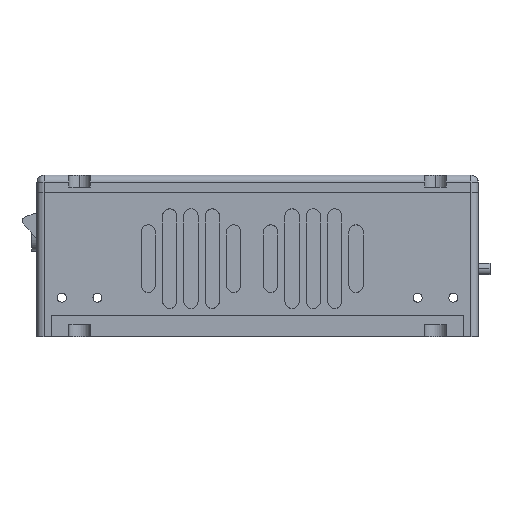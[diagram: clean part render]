
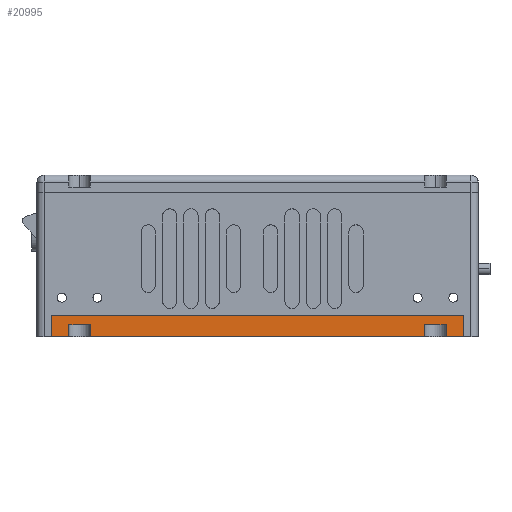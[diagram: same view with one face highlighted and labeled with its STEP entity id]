
A CAD part, left-side view. The second image highlights one B-rep face of the part: STEP entity #20995.
In plain terms, the highlighted planar face has unit normal (-1, 0, 0).
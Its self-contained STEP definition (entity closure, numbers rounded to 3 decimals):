
#875 = VECTOR ( 'NONE', #20814, 1000. ) ;
#926 = LINE ( 'NONE', #4193, #1162 ) ;
#1007 = EDGE_CURVE ( 'NONE', #1456, #4989, #12680, .T. ) ;
#1162 = VECTOR ( 'NONE', #10701, 1000. ) ;
#1406 = ORIENTED_EDGE ( 'NONE', *, *, #19804, .F. ) ;
#1430 = CARTESIAN_POINT ( 'NONE',  ( -82.367, -50.423, 167. ) ) ;
#1456 = VERTEX_POINT ( 'NONE', #18347 ) ;
#1684 = CARTESIAN_POINT ( 'NONE',  ( -82.367, -56.423, 170.4 ) ) ;
#1839 = LINE ( 'NONE', #19705, #2076 ) ;
#2006 = EDGE_CURVE ( 'NONE', #1456, #9806, #4565, .T. ) ;
#2051 = CARTESIAN_POINT ( 'NONE',  ( -82.367, 49.577, 170.4 ) ) ;
#2076 = VECTOR ( 'NONE', #17994, 1000. ) ;
#2280 = VECTOR ( 'NONE', #13365, 1000. ) ;
#2338 = CARTESIAN_POINT ( 'NONE',  ( -82.367, 54.577, 173. ) ) ;
#2495 = VECTOR ( 'NONE', #5290, 1000. ) ;
#2506 = EDGE_CURVE ( 'NONE', #12335, #9806, #8836, .T. ) ;
#2727 = VECTOR ( 'NONE', #9478, 1000. ) ;
#3028 = EDGE_CURVE ( 'NONE', #16609, #6830, #18991, .T. ) ;
#3306 = LINE ( 'NONE', #7106, #6836 ) ;
#3420 = VERTEX_POINT ( 'NONE', #9314 ) ;
#3558 = VECTOR ( 'NONE', #9912, 1000. ) ;
#3745 = CARTESIAN_POINT ( 'NONE',  ( -82.367, 49.577, 170.4 ) ) ;
#4193 = CARTESIAN_POINT ( 'NONE',  ( -82.367, 54.577, 173. ) ) ;
#4553 = EDGE_CURVE ( 'NONE', #3420, #19955, #17656, .T. ) ;
#4565 = LINE ( 'NONE', #2051, #3558 ) ;
#4691 = ORIENTED_EDGE ( 'NONE', *, *, #2006, .F. ) ;
#4752 = VERTEX_POINT ( 'NONE', #15041 ) ;
#4789 = CARTESIAN_POINT ( 'NONE',  ( -82.367, -61.423, 173. ) ) ;
#4989 = VERTEX_POINT ( 'NONE', #10910 ) ;
#5290 = DIRECTION ( 'NONE',  ( 0., -1., 0. ) ) ;
#5460 = DIRECTION ( 'NONE',  ( 0., 1., 0. ) ) ;
#5470 = DIRECTION ( 'NONE',  ( 0., -1., 0. ) ) ;
#5481 = ORIENTED_EDGE ( 'NONE', *, *, #4553, .T. ) ;
#5864 = ORIENTED_EDGE ( 'NONE', *, *, #3028, .F. ) ;
#6262 = ORIENTED_EDGE ( 'NONE', *, *, #8867, .T. ) ;
#6665 = CARTESIAN_POINT ( 'NONE',  ( -82.367, -50.423, 170.4 ) ) ;
#6668 = AXIS2_PLACEMENT_3D ( 'NONE', #2338, #13618, #5460 ) ;
#6784 = DIRECTION ( 'NONE',  ( 0., 0., -1. ) ) ;
#6830 = VERTEX_POINT ( 'NONE', #6665 ) ;
#6836 = VECTOR ( 'NONE', #5470, 1000. ) ;
#6897 = LINE ( 'NONE', #10204, #18859 ) ;
#6944 = DIRECTION ( 'NONE',  ( 0., 1., 0. ) ) ;
#7091 = CARTESIAN_POINT ( 'NONE',  ( -82.367, 54.577, 167. ) ) ;
#7106 = CARTESIAN_POINT ( 'NONE',  ( -82.367, 54.577, 173. ) ) ;
#7785 = VECTOR ( 'NONE', #6944, 1000. ) ;
#8346 = VERTEX_POINT ( 'NONE', #12991 ) ;
#8349 = CARTESIAN_POINT ( 'NONE',  ( -82.367, -56.423, 170.4 ) ) ;
#8456 = LINE ( 'NONE', #4789, #13807 ) ;
#8614 = CARTESIAN_POINT ( 'NONE',  ( -82.367, -56.423, 170.4 ) ) ;
#8836 = LINE ( 'NONE', #13449, #2495 ) ;
#8867 = EDGE_CURVE ( 'NONE', #4989, #9069, #1839, .T. ) ;
#9069 = VERTEX_POINT ( 'NONE', #10587 ) ;
#9314 = CARTESIAN_POINT ( 'NONE',  ( -82.367, -56.423, 167. ) ) ;
#9478 = DIRECTION ( 'NONE',  ( 0., -1., 0. ) ) ;
#9806 = VERTEX_POINT ( 'NONE', #20856 ) ;
#9912 = DIRECTION ( 'NONE',  ( 0., 0., -1. ) ) ;
#9982 = PLANE ( 'NONE',  #6668 ) ;
#10204 = CARTESIAN_POINT ( 'NONE',  ( -82.367, -50.423, 170.4 ) ) ;
#10587 = CARTESIAN_POINT ( 'NONE',  ( -82.367, 43.577, 167. ) ) ;
#10701 = DIRECTION ( 'NONE',  ( 0., 0., -1. ) ) ;
#10910 = CARTESIAN_POINT ( 'NONE',  ( -82.367, 43.577, 170.4 ) ) ;
#10914 = ORIENTED_EDGE ( 'NONE', *, *, #2506, .T. ) ;
#11136 = CARTESIAN_POINT ( 'NONE',  ( -82.367, 54.577, 167. ) ) ;
#11928 = EDGE_CURVE ( 'NONE', #4752, #12335, #926, .T. ) ;
#12335 = VERTEX_POINT ( 'NONE', #7091 ) ;
#12668 = ORIENTED_EDGE ( 'NONE', *, *, #11928, .T. ) ;
#12680 = LINE ( 'NONE', #3745, #2280 ) ;
#12831 = CARTESIAN_POINT ( 'NONE',  ( -82.367, 54.577, 167. ) ) ;
#12991 = CARTESIAN_POINT ( 'NONE',  ( -82.367, -61.423, 173. ) ) ;
#13365 = DIRECTION ( 'NONE',  ( 0., -1., 0. ) ) ;
#13449 = CARTESIAN_POINT ( 'NONE',  ( -82.367, 54.577, 167. ) ) ;
#13549 = DIRECTION ( 'NONE',  ( 0., 0., -1. ) ) ;
#13618 = DIRECTION ( 'NONE',  ( 1., 0., 0. ) ) ;
#13644 = LINE ( 'NONE', #12831, #2727 ) ;
#13667 = VERTEX_POINT ( 'NONE', #1430 ) ;
#13807 = VECTOR ( 'NONE', #19440, 1000. ) ;
#14353 = EDGE_LOOP ( 'NONE', ( #4691, #15086, #6262, #16728, #16226, #5864, #17215, #5481, #1406, #18764, #12668, #10914 ) ) ;
#14806 = EDGE_CURVE ( 'NONE', #16609, #3420, #18608, .T. ) ;
#15041 = CARTESIAN_POINT ( 'NONE',  ( -82.367, 54.577, 173. ) ) ;
#15065 = CARTESIAN_POINT ( 'NONE',  ( -82.367, -61.423, 167. ) ) ;
#15086 = ORIENTED_EDGE ( 'NONE', *, *, #1007, .T. ) ;
#15257 = FACE_OUTER_BOUND ( 'NONE', #14353, .T. ) ;
#16226 = ORIENTED_EDGE ( 'NONE', *, *, #21003, .F. ) ;
#16286 = EDGE_CURVE ( 'NONE', #4752, #8346, #3306, .T. ) ;
#16609 = VERTEX_POINT ( 'NONE', #1684 ) ;
#16728 = ORIENTED_EDGE ( 'NONE', *, *, #17842, .T. ) ;
#17215 = ORIENTED_EDGE ( 'NONE', *, *, #14806, .T. ) ;
#17354 = VECTOR ( 'NONE', #6784, 1000. ) ;
#17656 = LINE ( 'NONE', #11136, #875 ) ;
#17842 = EDGE_CURVE ( 'NONE', #9069, #13667, #13644, .T. ) ;
#17994 = DIRECTION ( 'NONE',  ( 0., 0., -1. ) ) ;
#18347 = CARTESIAN_POINT ( 'NONE',  ( -82.367, 49.577, 170.4 ) ) ;
#18608 = LINE ( 'NONE', #8614, #17354 ) ;
#18764 = ORIENTED_EDGE ( 'NONE', *, *, #16286, .F. ) ;
#18859 = VECTOR ( 'NONE', #13549, 1000. ) ;
#18991 = LINE ( 'NONE', #8349, #7785 ) ;
#19440 = DIRECTION ( 'NONE',  ( 0., 0., -1. ) ) ;
#19705 = CARTESIAN_POINT ( 'NONE',  ( -82.367, 43.577, 170.4 ) ) ;
#19804 = EDGE_CURVE ( 'NONE', #8346, #19955, #8456, .T. ) ;
#19955 = VERTEX_POINT ( 'NONE', #15065 ) ;
#20814 = DIRECTION ( 'NONE',  ( 0., -1., 0. ) ) ;
#20856 = CARTESIAN_POINT ( 'NONE',  ( -82.367, 49.577, 167. ) ) ;
#20995 = ADVANCED_FACE ( 'NONE', ( #15257 ), #9982, .F. ) ;
#21003 = EDGE_CURVE ( 'NONE', #6830, #13667, #6897, .T. ) ;
